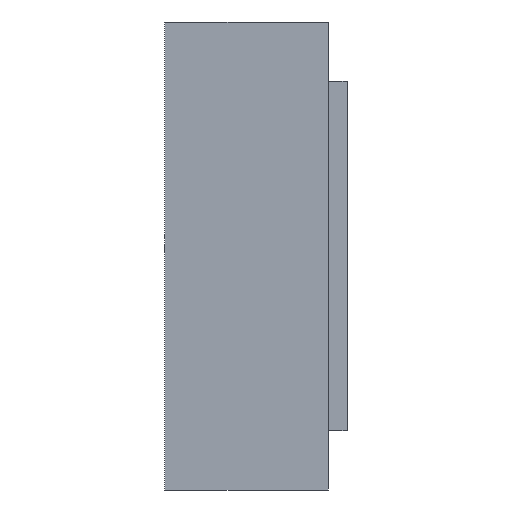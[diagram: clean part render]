
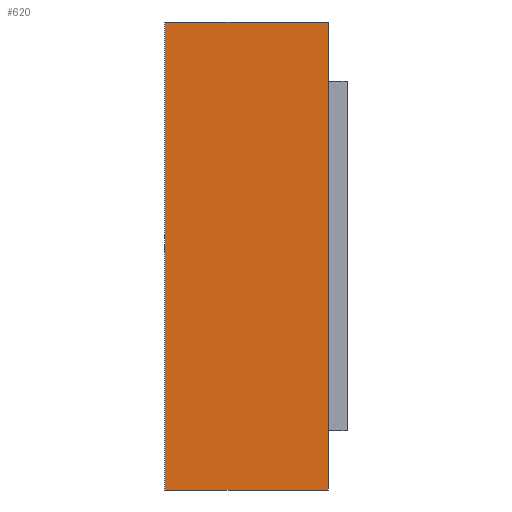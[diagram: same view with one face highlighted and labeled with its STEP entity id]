
A CAD part, left-side view. The second image highlights one B-rep face of the part: STEP entity #620.
In plain terms, the highlighted planar face has unit normal (-1, 0, 0).
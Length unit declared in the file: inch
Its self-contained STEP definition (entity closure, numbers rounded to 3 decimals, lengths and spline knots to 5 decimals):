
#6 = VECTOR ( 'NONE', #278, 39.37008 ) ;
#32 = EDGE_CURVE ( 'NONE', #60, #107, #421, .T. ) ;
#60 = VERTEX_POINT ( 'NONE', #621 ) ;
#65 = EDGE_CURVE ( 'NONE', #107, #584, #253, .T. ) ;
#73 = FACE_OUTER_BOUND ( 'NONE', #480, .T. ) ;
#107 = VERTEX_POINT ( 'NONE', #120 ) ;
#120 = CARTESIAN_POINT ( 'NONE',  ( -2.55906, 0., 1.46453 ) ) ;
#134 = DIRECTION ( 'NONE',  ( 0., 1., 0. ) ) ;
#176 = ORIENTED_EDGE ( 'NONE', *, *, #666, .T. ) ;
#180 = PLANE ( 'NONE',  #519 ) ;
#215 = ORIENTED_EDGE ( 'NONE', *, *, #362, .F. ) ;
#226 = VECTOR ( 'NONE', #134, 39.37008 ) ;
#236 = CARTESIAN_POINT ( 'NONE',  ( -2.55906, 1.02362, -1.46453 ) ) ;
#247 = VECTOR ( 'NONE', #674, 39.37008 ) ;
#253 = LINE ( 'NONE', #418, #247 ) ;
#259 = DIRECTION ( 'NONE',  ( 0., -1., 0. ) ) ;
#278 = DIRECTION ( 'NONE',  ( 0., 0., -1. ) ) ;
#294 = DIRECTION ( 'NONE',  ( 0., 0., -1. ) ) ;
#296 = CARTESIAN_POINT ( 'NONE',  ( -2.55906, 0., -1.46453 ) ) ;
#304 = ORIENTED_EDGE ( 'NONE', *, *, #65, .F. ) ;
#349 = LINE ( 'NONE', #296, #226 ) ;
#362 = EDGE_CURVE ( 'NONE', #584, #616, #349, .T. ) ;
#382 = ORIENTED_EDGE ( 'NONE', *, *, #32, .F. ) ;
#390 = CARTESIAN_POINT ( 'NONE',  ( -2.55906, 0., 0. ) ) ;
#418 = CARTESIAN_POINT ( 'NONE',  ( -2.55906, 0., 0. ) ) ;
#421 = LINE ( 'NONE', #518, #516 ) ;
#440 = LINE ( 'NONE', #576, #6 ) ;
#449 = DIRECTION ( 'NONE',  ( 1., 0., 0. ) ) ;
#480 = EDGE_LOOP ( 'NONE', ( #382, #176, #215, #304 ) ) ;
#500 = CARTESIAN_POINT ( 'NONE',  ( -2.55906, 0., -1.46453 ) ) ;
#516 = VECTOR ( 'NONE', #259, 39.37008 ) ;
#518 = CARTESIAN_POINT ( 'NONE',  ( -2.55906, 0., 1.46453 ) ) ;
#519 = AXIS2_PLACEMENT_3D ( 'NONE', #390, #449, #294 ) ;
#576 = CARTESIAN_POINT ( 'NONE',  ( -2.55906, 1.02362, -1.27953 ) ) ;
#584 = VERTEX_POINT ( 'NONE', #500 ) ;
#616 = VERTEX_POINT ( 'NONE', #236 ) ;
#620 = ADVANCED_FACE ( 'NONE', ( #73 ), #180, .F. ) ;
#621 = CARTESIAN_POINT ( 'NONE',  ( -2.55906, 1.02362, 1.46453 ) ) ;
#666 = EDGE_CURVE ( 'NONE', #60, #616, #440, .T. ) ;
#674 = DIRECTION ( 'NONE',  ( 0., 0., -1. ) ) ;
